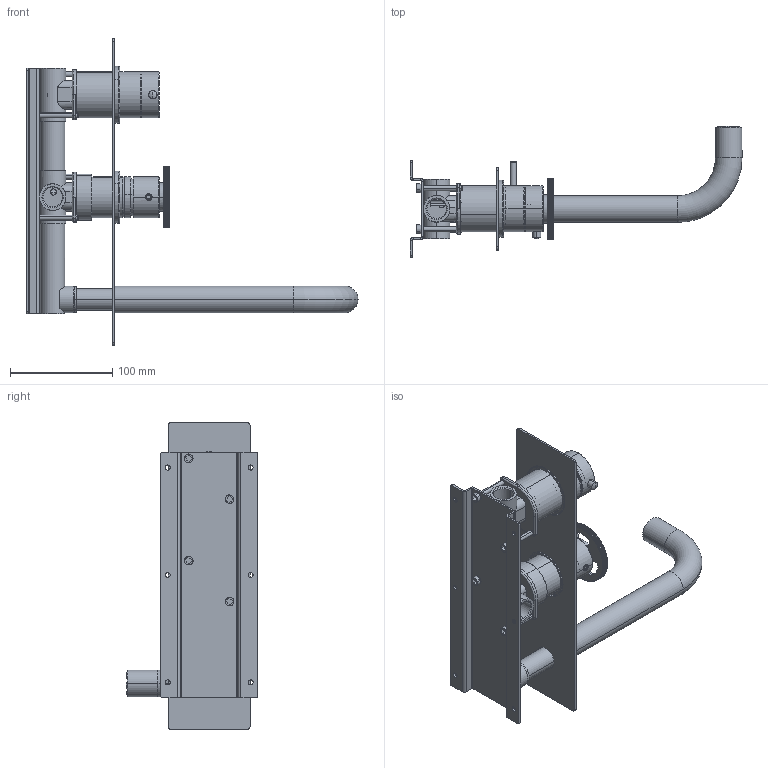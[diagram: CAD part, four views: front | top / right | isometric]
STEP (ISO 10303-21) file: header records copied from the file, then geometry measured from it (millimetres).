
FILE_DESCRIPTION (( 'STEP AP203' ), '1' );
FILE_NAME ('ETO5N.STEP', '2024-02-02T08:27:41', ( '' ), ( '' ), 'SwSTEP 2.0', 'SolidWorks 2023', '' );
FILE_SCHEMA (( 'CONFIG_CONTROL_DESIGN' ));
Length unit declared in the file: millimetre
Products named in the file (49): C25.2691.00; IST81; ADATTATORE MEZZO; CAPPUCCIO VASCA 3 FORI; C25.1964.00.0; C24.1464.00.1; C47.00.0015; C47.00.0076.00; 1000; C24.2436.00.0; C24.1992.00.0; C10.00.0017; ETO5N; VITETC5x40; C24.1457.00.2; EROGATORE VASCA E DOCCIA; EU1996_0; 405-40CPA GEDA; C24.2527.00.0; C13.00.0062; C11.10.0025; C47.00.0020.01; EU1456_0; C24.1965.00.0; C12.00.0008; EU1995_0; OR4569262NBR; OR3934262ACS; C24.1455.00.0; EU0615_0; EU1173_0; TUBO DI GIUNZIONE VASCA E DOCCIA; 77GP_SPOUTT1; C24.1966.00.0; FERMO38; C11.14.0009; C11.14.0007; C11.14.0013; C12.00.0017; AS535_00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
Assembly tree (54 placements, depth 4):
  ETO5N
    IST81
      405-40CPA GEDA
        1174G
        EROGATORE VASCA E DOCCIA
        TUBO DI GIUNZIONE VASCA E DOCCIA
        1174
        ADATTATORE MEZZO
      C24.1966.00.0
      C25.1964.00.0
      C12.00.0008
      C12.00.0017  x2
      1000
      C47.00.0015
      C24.1965.00.0
      C10.00.0011
      VITETC5x40  x4
      C10.00.0017
      C24.1455.00.0
      C47.00.0020.01
      C24.1993.00.0
    AS1023_00
      C24.1992.00.0
      C24.2527.00.0
      C11.14.0007
      C11.14.0009
      C47.00.0023.01
      C24.1464.00.1
      C24.2436.00.0
      C11.10.0025
    EU1456_0
    FERMO38
    EU0620_0
    EU0615_0
    AS535_00
      C24.1457.00.2
      C25.0814.00.0
      C11.14.0013
      C11.14.0009
      C47.00.0023.01
      C47.00.0076.00
    EU1173_0
    77GP_SPOUTT1
    C13.00.0062
    GRANCO M4x3 ACCIAIO
    CAPPUCCIO VASCA 3 FORI
    C25.2691.00
    EU1995_0
    EU1996_0
    OR3934262ACS
    OR4569262NBR
Bounding box: 324.5 x 128.5 x 300 mm (x, y, z)
Volume: 535522.4 mm3; surface area: 331491.7 mm2
Topology: 56 solids, 56 shells, 3472 faces, 9159 edges, 5886 vertices
Faces by surface type: plane 1704, cylinder 1197, cone 318, torus 128, bspline 123, sphere 2
Entity records: 120809 total; most frequent: CARTESIAN_POINT 31307, ORIENTED_EDGE 17792, DIRECTION 17562, EDGE_CURVE 8896, AXIS2_PLACEMENT_3D 6250, VERTEX_POINT 5730, VECTOR 5062, LINE 5062
